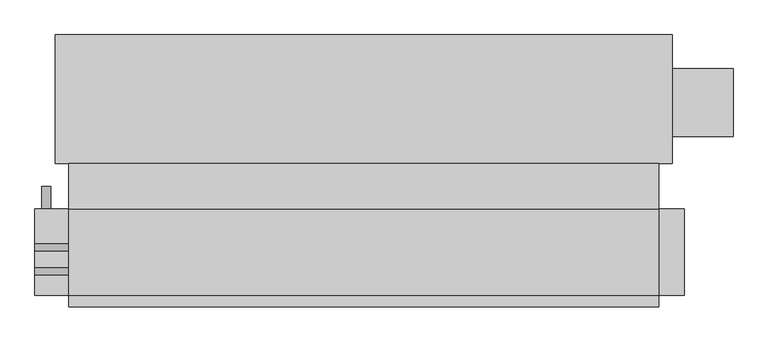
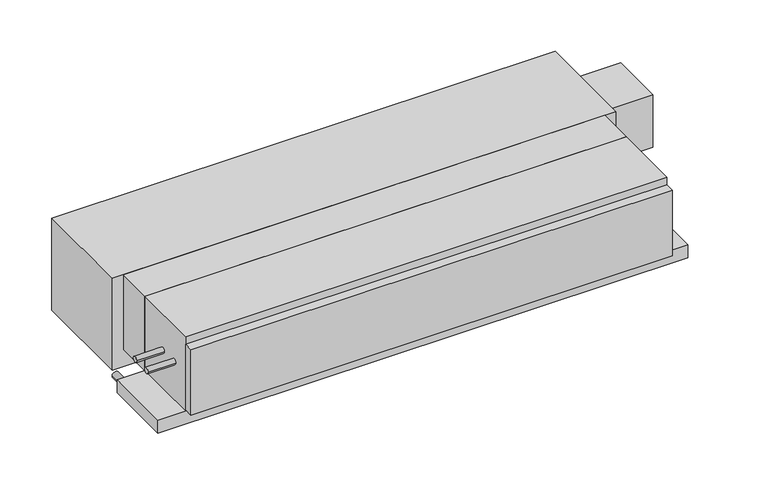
"""IFC4 building model written with IfcOpenShell, lengths in millimetres: proxy geometry, Concealed_Horizontal_Fan_Coil_Unit_With_Plenum_-_42CEA_-_CARRIER_-_2-Pipe_Cool-EHeat_LH_2022 : Size 10 - 277v/60Hz/1Ph - 4 Row 8.0kW."""

from ifc_helpers import new_model, si_unit, point, frame, frame_2d, origin, place, context, project, spatial, polyline, circle_curve, trimmed, segment, composite_curve, outline, extrude, source, transform, mapped, element, save


def mechanical_equipment_0a656818(model_context):
    return source(origin(), model_context, "Body", "SweptSolid", [
        extrude(outline(composite_curve([segment(trimmed(circle_curve(frame_2d((-280.9875, -104.775)), 7.9375), [point((-288.925, -104.775))], [point((-273.05, -104.775))], False, "CARTESIAN"), True, "CONTINUOUS"), segment(trimmed(circle_curve(frame_2d((-280.9875, -104.775)), 7.9375), [point((-273.05, -104.775))], [point((-288.925, -104.775))], False, "CARTESIAN"), True, "CONTINUOUS")], self_intersect=False)), frame((-584.2, 0.0, 0.0), z_axis=(1.0, 0.0, 0.0), x_axis=(0.0, 1.0, 0.0)), (0.0, 0.0, 1.0), 76.2),
        extrude(outline(composite_curve([segment(trimmed(circle_curve(frame_2d((-227.0125, -104.775)), 7.9375), [point((-234.95, -104.775))], [point((-219.075, -104.775))], False, "CARTESIAN"), True, "CONTINUOUS"), segment(trimmed(circle_curve(frame_2d((-227.0125, -104.775)), 7.9375), [point((-219.075, -104.775))], [point((-234.95, -104.775))], False, "CARTESIAN"), True, "CONTINUOUS")], self_intersect=False)), frame((-584.2, 0.0, 0.0), z_axis=(1.0, 0.0, 0.0), x_axis=(0.0, 1.0, 0.0)), (0.0, 0.0, 1.0), 76.2),
        extrude(outline(composite_curve([segment(trimmed(circle_curve(frame_2d((-241.3, -558.8)), 9.525), [point((-241.3, -568.325))], [point((-241.3, -549.275))], False, "CARTESIAN"), True, "CONTINUOUS"), segment(trimmed(circle_curve(frame_2d((-241.3, -558.8)), 9.525), [point((-241.3, -549.275))], [point((-241.3, -568.325))], False, "CARTESIAN"), True, "CONTINUOUS")], self_intersect=False)), frame((0.0, -141.2875, 0.0), z_axis=(0.0, 1.0, 0.0), x_axis=(0.0, 0.0, 1.0)), (0.0, 0.0, 1.0), 50.8),
        extrude(outline(polyline([(-508.0, -39.6875), (812.8, -39.6875), (812.8, -141.2875), (-508.0, -141.2875), (-508.0, -39.6875)])), frame((0.0, 0.0, -215.9), z_axis=(0.0, 0.0, 1.0), x_axis=(1.0, 0.0, 0.0)), (0.0, 0.0, 1.0), 215.9),
        extrude(outline(polyline([(812.8, -360.3625), (-508.0, -360.3625), (-508.0, -334.9625), (812.8, -334.9625), (812.8, -360.3625)])), frame((0.0, 0.0, -212.725), z_axis=(0.0, 0.0, 1.0), x_axis=(1.0, 0.0, 0.0)), (0.0, 0.0, 1.0), 190.5),
        extrude(outline(polyline([(979.4875, 173.0375), (979.4875, 20.6375), (842.9625, 20.6375), (842.9625, 173.0375), (979.4875, 173.0375)])), frame((0.0, 0.0, -187.325), z_axis=(0.0, 0.0, 1.0), x_axis=(1.0, 0.0, 0.0)), (0.0, 0.0, 1.0), 152.4),
        extrude(outline(polyline([(-538.1625, 249.2375), (842.9625, 249.2375), (842.9625, -39.6875), (-538.1625, -39.6875), (-538.1625, 249.2375)])), frame((0.0, 0.0, -266.7), z_axis=(0.0, 0.0, 1.0), x_axis=(1.0, 0.0, 0.0)), (0.0, 0.0, 1.0), 266.7),
        extrude(outline(polyline([(812.8, -141.2875), (812.8, -334.9625), (-508.0, -334.9625), (-508.0, -141.2875), (812.8, -141.2875)])), frame((0.0, 0.0, -215.9), z_axis=(0.0, 0.0, 1.0), x_axis=(1.0, 0.0, 0.0)), (0.0, 0.0, 1.0), 215.9),
        extrude(outline(polyline([(869.95, -141.2875), (869.95, -334.9625), (-584.2, -334.9625), (-584.2, -141.2875), (869.95, -141.2875)])), frame((0.0, 0.0, -254.0), z_axis=(0.0, 0.0, 1.0), x_axis=(1.0, 0.0, 0.0)), (0.0, 0.0, 1.0), 38.1),
    ])


if __name__ == "__main__":
    model = new_model("IFC4")
    model_context = context("Model", 3, world=origin())
    ifc_project = project(units=[si_unit("LENGTHUNIT", "METRE", prefix="MILLI")], contexts=[model_context])
    site = spatial("IfcSite", under=ifc_project)
    building = spatial("IfcBuilding", under=site)
    placement = place(None, origin())
    mechanical_equipment_shape = mechanical_equipment_0a656818(model_context)
    element("IfcBuildingElementProxy", 1, Name="Concealed_Horizontal_Fan_Coil_Unit_With_Plenum_-_42CEA_-_CARRIER_-_2-Pipe_Cool-EHeat_LH_2022 : Size 10 - 277v/60Hz/1Ph - 4 Row 8.0kW", ObjectType="Concealed_Horizontal_Fan_Coil_Unit_With_Plenum_-_42CEA_-_CARRIER_-_2-Pipe_Cool-EHeat_LH_2022 : Size 10 - 277v/60Hz/1Ph - 4 Row 8.0kW", at=placement, inside=building, context=model_context, shape_type="MappedRepresentation", body=[
        mapped(mechanical_equipment_shape, transform((0.0, 0.0, 0.0), x_axis=(1.0, 0.0, 0.0), y_axis=(0.0, 1.0, 0.0), z_axis=(0.0, 0.0, 1.0))),
    ])
    save(model, "model.ifc")
